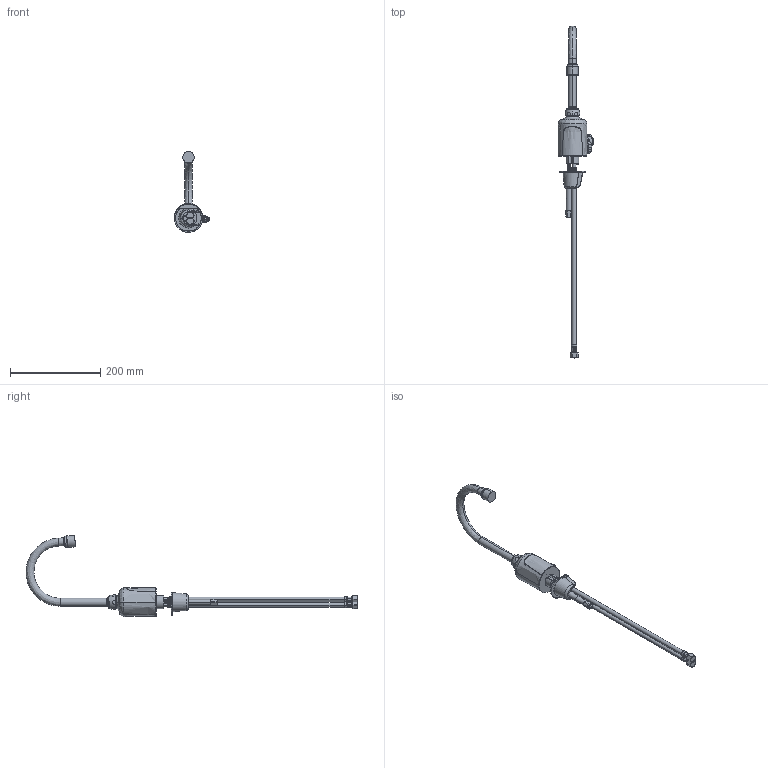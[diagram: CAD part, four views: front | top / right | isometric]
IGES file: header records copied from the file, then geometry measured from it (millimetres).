
Start section:  PTC IGES file: 116-123-AB-1_REV030910.igs
Global section: file name: 116-123-AB-1_REV030910.igs; native system: Pro/ENGINEER by Parametric Technology Corporation; preprocessor: 2009230; author: sdmitruk; organization: Unknown; date: 20100309.081451; units: inch
Bounding box: 79.16 x 735.49 x 179.56 mm (x, y, z)
Surface area: 106148.5 mm2 (no closed solid volume)
Topology: 0 solids, 56 shells, 626 faces, 1854 edges, 1243 vertices
Faces by surface type: revolution 351, bspline 275
